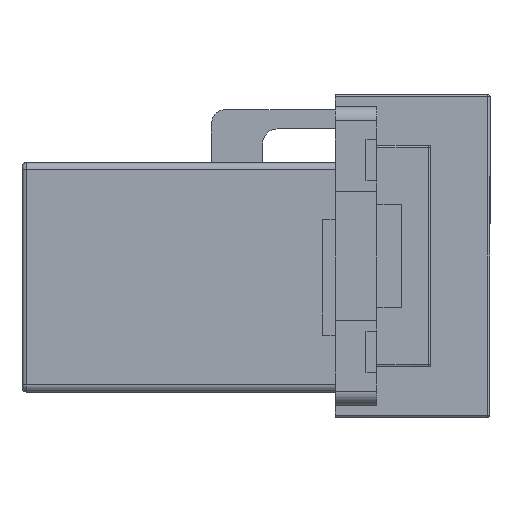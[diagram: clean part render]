
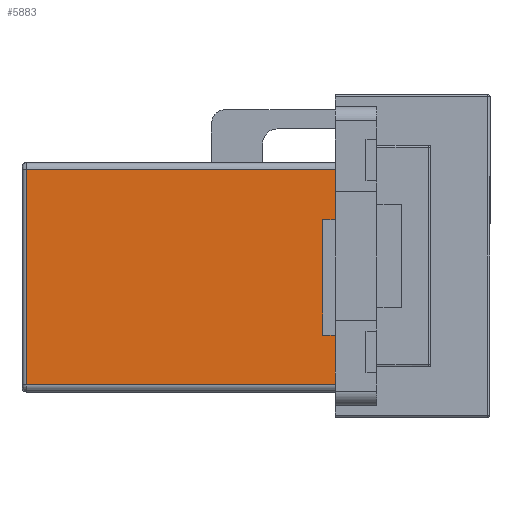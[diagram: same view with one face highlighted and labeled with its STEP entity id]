
A CAD part, left-side view. The second image highlights one B-rep face of the part: STEP entity #5883.
In plain terms, the highlighted planar face has unit normal (-1, 0, 0).
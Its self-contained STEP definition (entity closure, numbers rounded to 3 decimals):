
#5165 = VERTEX_POINT('',#5166);
#5166 = CARTESIAN_POINT('',(-7.25,7.55,0.3));
#5173 = EDGE_CURVE('',#5165,#5174,#5176,.T.);
#5174 = VERTEX_POINT('',#5175);
#5175 = CARTESIAN_POINT('',(-7.25,7.55,32.2));
#5176 = LINE('',#5177,#5178);
#5177 = CARTESIAN_POINT('',(-7.25,7.55,0.));
#5178 = VECTOR('',#5179,1.);
#5179 = DIRECTION('',(0.,0.,1.));
#5883 = ADVANCED_FACE('',(#5884,#5909),#5943,.F.);
#5884 = FACE_BOUND('',#5885,.F.);
#5885 = EDGE_LOOP('',(#5886,#5887,#5895,#5903));
#5886 = ORIENTED_EDGE('',*,*,#5173,.T.);
#5887 = ORIENTED_EDGE('',*,*,#5888,.T.);
#5888 = EDGE_CURVE('',#5174,#5889,#5891,.T.);
#5889 = VERTEX_POINT('',#5890);
#5890 = CARTESIAN_POINT('',(-7.25,-7.55,32.2));
#5891 = LINE('',#5892,#5893);
#5892 = CARTESIAN_POINT('',(-7.25,7.55,32.2));
#5893 = VECTOR('',#5894,1.);
#5894 = DIRECTION('',(0.,-1.,0.));
#5895 = ORIENTED_EDGE('',*,*,#5896,.F.);
#5896 = EDGE_CURVE('',#5897,#5889,#5899,.T.);
#5897 = VERTEX_POINT('',#5898);
#5898 = CARTESIAN_POINT('',(-7.25,-7.55,0.3));
#5899 = LINE('',#5900,#5901);
#5900 = CARTESIAN_POINT('',(-7.25,-7.55,0.));
#5901 = VECTOR('',#5902,1.);
#5902 = DIRECTION('',(0.,0.,1.));
#5903 = ORIENTED_EDGE('',*,*,#5904,.F.);
#5904 = EDGE_CURVE('',#5165,#5897,#5905,.T.);
#5905 = LINE('',#5906,#5907);
#5906 = CARTESIAN_POINT('',(-7.25,7.55,0.3));
#5907 = VECTOR('',#5908,1.);
#5908 = DIRECTION('',(0.,-1.,0.));
#5909 = FACE_BOUND('',#5910,.F.);
#5910 = EDGE_LOOP('',(#5911,#5921,#5929,#5937));
#5911 = ORIENTED_EDGE('',*,*,#5912,.F.);
#5912 = EDGE_CURVE('',#5913,#5915,#5917,.T.);
#5913 = VERTEX_POINT('',#5914);
#5914 = CARTESIAN_POINT('',(-7.25,-4.05,22.5));
#5915 = VERTEX_POINT('',#5916);
#5916 = CARTESIAN_POINT('',(-7.25,-4.05,21.1));
#5917 = LINE('',#5918,#5919);
#5918 = CARTESIAN_POINT('',(-7.25,-4.05,22.5));
#5919 = VECTOR('',#5920,1.);
#5920 = DIRECTION('',(-0.,-0.,-1.));
#5921 = ORIENTED_EDGE('',*,*,#5922,.T.);
#5922 = EDGE_CURVE('',#5913,#5923,#5925,.T.);
#5923 = VERTEX_POINT('',#5924);
#5924 = CARTESIAN_POINT('',(-7.25,4.05,22.5));
#5925 = LINE('',#5926,#5927);
#5926 = CARTESIAN_POINT('',(-7.25,-4.05,22.5));
#5927 = VECTOR('',#5928,1.);
#5928 = DIRECTION('',(0.,1.,0.));
#5929 = ORIENTED_EDGE('',*,*,#5930,.T.);
#5930 = EDGE_CURVE('',#5923,#5931,#5933,.T.);
#5931 = VERTEX_POINT('',#5932);
#5932 = CARTESIAN_POINT('',(-7.25,4.05,21.1));
#5933 = LINE('',#5934,#5935);
#5934 = CARTESIAN_POINT('',(-7.25,4.05,22.5));
#5935 = VECTOR('',#5936,1.);
#5936 = DIRECTION('',(-0.,-0.,-1.));
#5937 = ORIENTED_EDGE('',*,*,#5938,.F.);
#5938 = EDGE_CURVE('',#5915,#5931,#5939,.T.);
#5939 = LINE('',#5940,#5941);
#5940 = CARTESIAN_POINT('',(-7.25,-4.05,21.1));
#5941 = VECTOR('',#5942,1.);
#5942 = DIRECTION('',(0.,1.,0.));
#5943 = PLANE('',#5944);
#5944 = AXIS2_PLACEMENT_3D('',#5945,#5946,#5947);
#5945 = CARTESIAN_POINT('',(-7.25,8.05,0.));
#5946 = DIRECTION('',(1.,0.,0.));
#5947 = DIRECTION('',(0.,-1.,0.));
